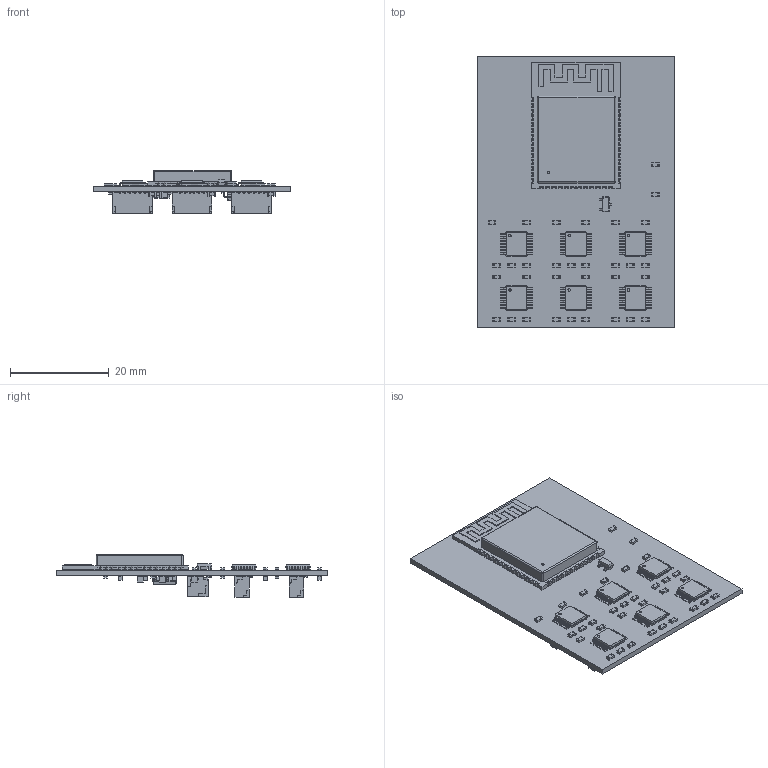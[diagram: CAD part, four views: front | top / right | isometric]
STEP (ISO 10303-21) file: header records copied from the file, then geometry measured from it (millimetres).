
FILE_DESCRIPTION(('KiCad electronic assembly'),'2;1');
FILE_NAME('N2_inherited.step','2026-09-24T08:02:10',('Pcbnew'),('Kicad') ,'Open CASCADE STEP processor 7.9','KiCad to STEP converter','Unknown' );
FILE_SCHEMA(('AUTOMOTIVE_DESIGN { 1 0 10303 214 1 1 1 1 }'));
Length unit declared in the file: millimetre
Products named in the file (20): N2_inherited 1; R_0603_1608Metric; SOT-23; TSSOP-14_4.4x5mm_P0.65mm; ESP32-S3-WROOM-1; C_0603_1608Metric; JST_SH_BM06B-SRSS-TB_1x06-1MP_P1.00mm_Vertical; C_0805_2012Metric; JST_GH_BM03B-GHS-TBT_1x03-1MP_P1.25mm_Vertical; JST_BM03B_GHS_TBT; SOIC-8_3.9x4.9mm_P1.27mm; PoseDoll_RevO_N6_placement_PCB
Assembly tree (93 placements, depth 3):
  N2_inherited 1
    R_0603_1608Metric  x53
      R_0603_1608Metric
    SOT-23
      SOT-23
    TSSOP-14_4.4x5mm_P0.65mm  x6
      TSSOP-14_4.4x5mm_P0.65mm
    ESP32-S3-WROOM-1
      ESP32-S3-WROOM-1
    C_0603_1608Metric  x10
      C_0603_1608Metric
    JST_SH_BM06B-SRSS-TB_1x06-1MP_P1.00mm_Vertical  x6
      JST_SH_BM06B-SRSS-TB_1x06-1MP_P1.00mm_Vertical
    C_0805_2012Metric  x3
      C_0805_2012Metric
    JST_GH_BM03B-GHS-TBT_1x03-1MP_P1.25mm_Vertical  x2
      JST_BM03B_GHS_TBT
    SOIC-8_3.9x4.9mm_P1.27mm
      SOIC-8_3.9x4.9mm_P1.27mm
    PoseDoll_RevO_N6_placement_PCB
Bounding box: 40 x 55 x 8.7 mm (x, y, z)
Volume: 4138.9 mm3; surface area: 9249.2 mm2
Topology: 135 solids, 135 shells, 5699 faces, 14785 edges, 9452 vertices
Faces by surface type: plane 4506, cylinder 1061, bspline 128, sphere 4
Full cylindrical faces by diameter (mm): 0.2 x12, 0.5 x1
Entity records: 77816 total; most frequent: CARTESIAN_POINT 10913, ORIENTED_EDGE 10449, DIRECTION 9928, EDGE_CURVE 5225, LINE 4684, VECTOR 4684, VERTEX_POINT 3271, AXIS2_PLACEMENT_3D 2622
